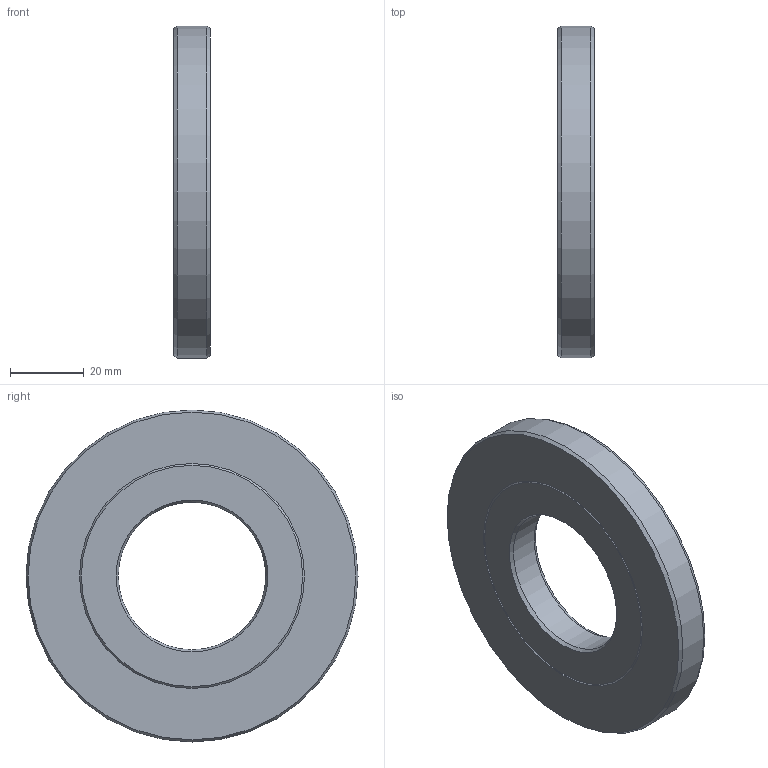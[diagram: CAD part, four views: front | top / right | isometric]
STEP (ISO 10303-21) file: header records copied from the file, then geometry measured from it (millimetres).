
FILE_DESCRIPTION(/* description */ (''),/* implementation_level */ '2;1');
FILE_NAME(/* name */ '301576 S40x90x10.stp',/* time_stamp */ '2016-12-16T13:42:10+01:00',/* author */ (''),/* organization */ (''),/* preprocessor_version */ 'ST-DEVELOPER v15',/* originating_system */ 'SIEMENS PLM Software NX 8.5',/* authorisation */ '');
FILE_SCHEMA (('CONFIG_CONTROL_DESIGN'));
Length unit declared in the file: millimetre
Products named in the file (1): ATE0000143_01
Bounding box: 10 x 90 x 90 mm (x, y, z)
Volume: 49762.6 mm3; surface area: 19228.6 mm2
Topology: 2 solids, 2 shells, 16 faces, 30 edges, 18 vertices
Faces by surface type: cone 10, plane 4, cylinder 2
Full cylindrical faces by diameter (mm): 40 x1, 90 x1
Entity records: 414 total; most frequent: DIRECTION 66, CARTESIAN_POINT 49, AXIS2_PLACEMENT_3D 33, FACE_BOUND 32, EDGE_LOOP 32, ORIENTED_EDGE 32, ADVANCED_FACE 16, VERTEX_POINT 16
